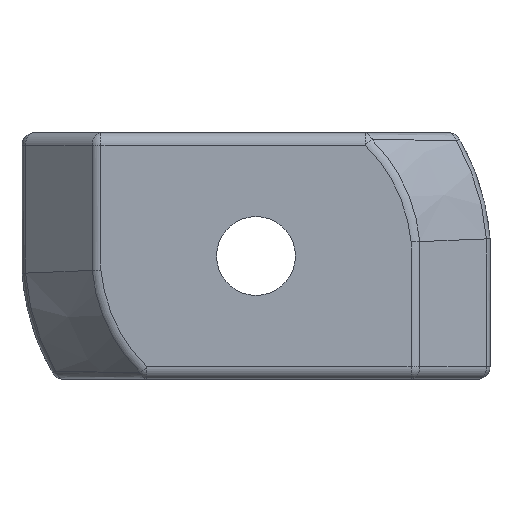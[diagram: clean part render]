
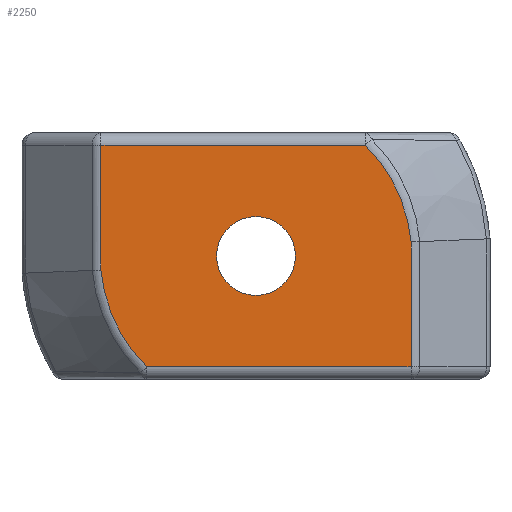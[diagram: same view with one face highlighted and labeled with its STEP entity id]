
A CAD part, front view. The second image highlights one B-rep face of the part: STEP entity #2250.
In plain terms, the highlighted planar face has unit normal (0, -1, 0).
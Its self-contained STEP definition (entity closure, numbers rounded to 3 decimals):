
#10 = CARTESIAN_POINT ( 'NONE',  ( -6.293, 0., -0.579 ) ) ;
#39 = ORIENTED_EDGE ( 'NONE', *, *, #1884, .F. ) ;
#50 = ORIENTED_EDGE ( 'NONE', *, *, #1449, .F. ) ;
#133 = VECTOR ( 'NONE', #820, 1000. ) ;
#178 = LINE ( 'NONE', #944, #572 ) ;
#180 = FACE_OUTER_BOUND ( 'NONE', #2121, .T. ) ;
#225 = CARTESIAN_POINT ( 'NONE',  ( 6.293, 0., -4.5 ) ) ;
#434 = CARTESIAN_POINT ( 'NONE',  ( -6.293, 0., -0.57 ) ) ;
#440 = VERTEX_POINT ( 'NONE', #1533 ) ;
#467 = EDGE_CURVE ( 'NONE', #1925, #828, #1726, .T. ) ;
#477 = LINE ( 'NONE', #638, #133 ) ;
#539 = DIRECTION ( 'NONE',  ( 0., 0., -1. ) ) ;
#572 = VECTOR ( 'NONE', #718, 1000. ) ;
#609 = CARTESIAN_POINT ( 'NONE',  ( 0., 0., -1.6 ) ) ;
#638 = CARTESIAN_POINT ( 'NONE',  ( 0., 0., -4.5 ) ) ;
#649 = ORIENTED_EDGE ( 'NONE', *, *, #1403, .T. ) ;
#659 = ORIENTED_EDGE ( 'NONE', *, *, #1804, .T. ) ;
#684 = EDGE_CURVE ( 'NONE', #891, #1391, #178, .T. ) ;
#689 = DIRECTION ( 'NONE',  ( 0., 0., 1. ) ) ;
#691 = CARTESIAN_POINT ( 'NONE',  ( 0., 0., 0. ) ) ;
#718 = DIRECTION ( 'NONE',  ( 0., 0., 1. ) ) ;
#773 = CARTESIAN_POINT ( 'NONE',  ( 0., 0., 0. ) ) ;
#805 = VECTOR ( 'NONE', #539, 1000. ) ;
#807 = CARTESIAN_POINT ( 'NONE',  ( -6.293, 0., 4.5 ) ) ;
#809 = VERTEX_POINT ( 'NONE', #2301 ) ;
#820 = DIRECTION ( 'NONE',  ( 1., 0., 0. ) ) ;
#828 = VERTEX_POINT ( 'NONE', #807 ) ;
#891 = VERTEX_POINT ( 'NONE', #225 ) ;
#901 = PLANE ( 'NONE',  #1287 ) ;
#906 = CIRCLE ( 'NONE', #1777, 6.319 ) ;
#927 = LINE ( 'NONE', #10, #805 ) ;
#942 = AXIS2_PLACEMENT_3D ( 'NONE', #691, #1832, #1855 ) ;
#944 = CARTESIAN_POINT ( 'NONE',  ( 6.293, 0., 0.579 ) ) ;
#985 = DIRECTION ( 'NONE',  ( 0., -1., 0. ) ) ;
#1017 = CIRCLE ( 'NONE', #2331, 1.6 ) ;
#1063 = DIRECTION ( 'NONE',  ( 0., 0., 1. ) ) ;
#1111 = ORIENTED_EDGE ( 'NONE', *, *, #684, .T. ) ;
#1132 = DIRECTION ( 'NONE',  ( -1., 0., 0. ) ) ;
#1204 = ORIENTED_EDGE ( 'NONE', *, *, #2073, .T. ) ;
#1215 = VERTEX_POINT ( 'NONE', #609 ) ;
#1268 = FACE_BOUND ( 'NONE', #2007, .T. ) ;
#1273 = DIRECTION ( 'NONE',  ( 0., -1., 0. ) ) ;
#1283 = ORIENTED_EDGE ( 'NONE', *, *, #467, .T. ) ;
#1287 = AXIS2_PLACEMENT_3D ( 'NONE', #1475, #1854, #689 ) ;
#1307 = CIRCLE ( 'NONE', #1911, 1.6 ) ;
#1309 = DIRECTION ( 'NONE',  ( 0., -1., 0. ) ) ;
#1335 = CARTESIAN_POINT ( 'NONE',  ( 0., 0., 0. ) ) ;
#1370 = CIRCLE ( 'NONE', #942, 6.319 ) ;
#1391 = VERTEX_POINT ( 'NONE', #2065 ) ;
#1403 = EDGE_CURVE ( 'NONE', #828, #2378, #927, .T. ) ;
#1449 = EDGE_CURVE ( 'NONE', #1215, #809, #1307, .T. ) ;
#1475 = CARTESIAN_POINT ( 'NONE',  ( 0., 0., 0. ) ) ;
#1493 = CARTESIAN_POINT ( 'NONE',  ( 0., 0., 0. ) ) ;
#1528 = CARTESIAN_POINT ( 'NONE',  ( 4.436, 0., 4.5 ) ) ;
#1533 = CARTESIAN_POINT ( 'NONE',  ( -4.436, 0., -4.5 ) ) ;
#1604 = EDGE_CURVE ( 'NONE', #2378, #440, #906, .T. ) ;
#1699 = DIRECTION ( 'NONE',  ( 0., 0., 1. ) ) ;
#1726 = LINE ( 'NONE', #2304, #2248 ) ;
#1777 = AXIS2_PLACEMENT_3D ( 'NONE', #1335, #985, #2102 ) ;
#1804 = EDGE_CURVE ( 'NONE', #1391, #1925, #1370, .T. ) ;
#1832 = DIRECTION ( 'NONE',  ( 0., -1., 0. ) ) ;
#1854 = DIRECTION ( 'NONE',  ( 0., 1., 0. ) ) ;
#1855 = DIRECTION ( 'NONE',  ( 0., 0., 1. ) ) ;
#1884 = EDGE_CURVE ( 'NONE', #809, #1215, #1017, .T. ) ;
#1911 = AXIS2_PLACEMENT_3D ( 'NONE', #1493, #1273, #1063 ) ;
#1925 = VERTEX_POINT ( 'NONE', #1528 ) ;
#2007 = EDGE_LOOP ( 'NONE', ( #39, #50 ) ) ;
#2065 = CARTESIAN_POINT ( 'NONE',  ( 6.293, 0., 0.57 ) ) ;
#2073 = EDGE_CURVE ( 'NONE', #440, #891, #477, .T. ) ;
#2075 = ORIENTED_EDGE ( 'NONE', *, *, #1604, .T. ) ;
#2102 = DIRECTION ( 'NONE',  ( 0., 0., 1. ) ) ;
#2121 = EDGE_LOOP ( 'NONE', ( #2075, #1204, #1111, #659, #1283, #649 ) ) ;
#2248 = VECTOR ( 'NONE', #1132, 1000. ) ;
#2250 = ADVANCED_FACE ( 'NONE', ( #1268, #180 ), #901, .F. ) ;
#2301 = CARTESIAN_POINT ( 'NONE',  ( 0., 0., 1.6 ) ) ;
#2304 = CARTESIAN_POINT ( 'NONE',  ( 0., 0., 4.5 ) ) ;
#2331 = AXIS2_PLACEMENT_3D ( 'NONE', #773, #1309, #1699 ) ;
#2378 = VERTEX_POINT ( 'NONE', #434 ) ;
